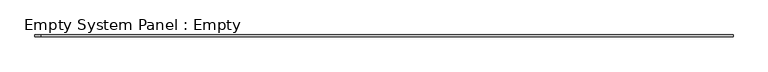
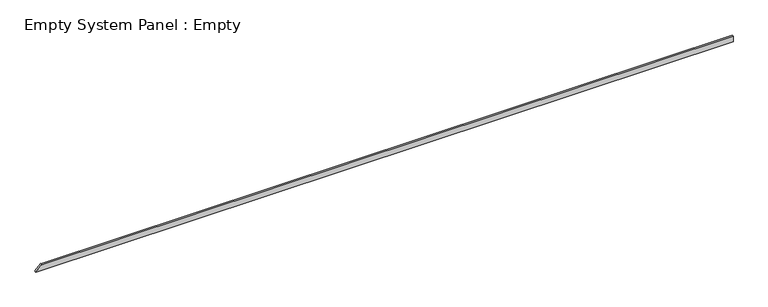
"""IFC4 building model written with IfcOpenShell, lengths in millimetres: plate geometry, Empty System Panel : Empty."""

from ifc_helpers import new_model, si_unit, frame, origin, place, context, project, spatial, polyline, outline, extrude, source, transform, mapped, element, save


def empty_system_panel_empty_b74756e7(model_context):
    return source(origin(), model_context, "Body", "SweptSolid", [
        extrude(outline(polyline([(0.0, -19101.5187937), (0.0, 19101.5187937), (310.0, 19101.5187937), (310.0, -18775.1697972), (330.0, -18775.1697972), (0.0, -19101.5187937)])), frame((0.0, -50.0, 0.0), z_axis=(0.0, 1.0, 0.0), x_axis=(0.0, 0.0, 1.0)), (0.0, 0.0, 1.0), 100.0),
    ])


if __name__ == "__main__":
    model = new_model("IFC4")
    model_context = context("Model", 3, world=origin())
    ifc_project = project(units=[si_unit("LENGTHUNIT", "METRE", prefix="MILLI")], contexts=[model_context])
    site = spatial("IfcSite", under=ifc_project)
    building = spatial("IfcBuilding", under=site)
    placement = place(None, origin())
    empty_system_panel_empty_shape = empty_system_panel_empty_b74756e7(model_context)
    element("IfcPlate", 1, ObjectType="Empty System Panel : Empty", at=placement, inside=building, context=model_context, shape_type="MappedRepresentation", body=[
        mapped(empty_system_panel_empty_shape, transform((0.0, 0.0, 0.0), x_axis=(1.0, 0.0, 0.0), y_axis=(0.0, 1.0, 0.0), z_axis=(0.0, 0.0, 1.0))),
    ])
    save(model, "model.ifc")
